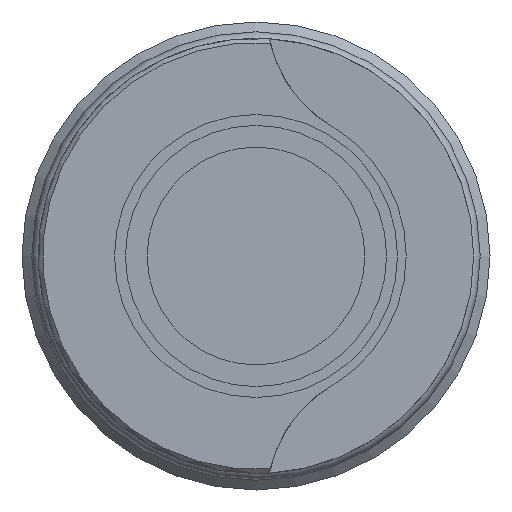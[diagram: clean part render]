
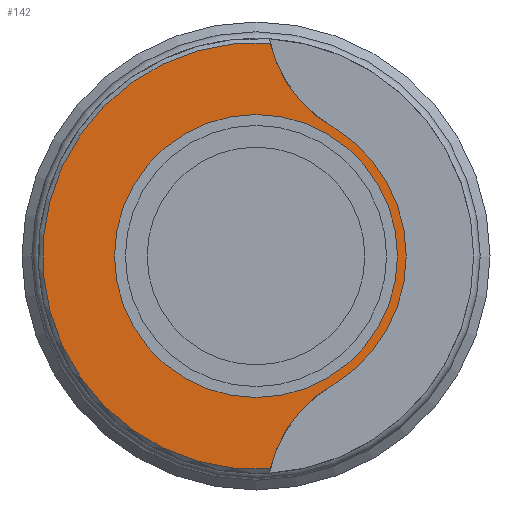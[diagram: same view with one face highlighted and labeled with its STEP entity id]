
A CAD part, left-side view. The second image highlights one B-rep face of the part: STEP entity #142.
In plain terms, the highlighted planar face has unit normal (-1, 0, 0).
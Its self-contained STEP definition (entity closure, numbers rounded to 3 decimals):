
#142 = ADVANCED_FACE( '', ( #311, #312 ), #313, .F. );
#311 = FACE_OUTER_BOUND( '', #488, .T. );
#312 = FACE_BOUND( '', #489, .T. );
#313 = PLANE( '', #490 );
#488 = EDGE_LOOP( '', ( #813, #814, #815, #816 ) );
#489 = EDGE_LOOP( '', ( #817 ) );
#490 = AXIS2_PLACEMENT_3D( '', #818, #819, #820 );
#813 = ORIENTED_EDGE( '', *, *, #1035, .F. );
#814 = ORIENTED_EDGE( '', *, *, #989, .T. );
#815 = ORIENTED_EDGE( '', *, *, #985, .F. );
#816 = ORIENTED_EDGE( '', *, *, #1036, .T. );
#817 = ORIENTED_EDGE( '', *, *, #1037, .T. );
#818 = CARTESIAN_POINT( '', ( 0., 6.5, 0. ) );
#819 = DIRECTION( '', ( 1., 0., 0. ) );
#820 = DIRECTION( '', ( 0., 0., -1. ) );
#985 = EDGE_CURVE( '', #1174, #1175, #1176, .T. );
#989 = EDGE_CURVE( '', #1180, #1175, #1181, .T. );
#1035 = EDGE_CURVE( '', #1180, #1241, #1242, .T. );
#1036 = EDGE_CURVE( '', #1174, #1241, #1243, .T. );
#1037 = EDGE_CURVE( '', #1244, #1244, #1245, .T. );
#1174 = VERTEX_POINT( '', #1427 );
#1175 = VERTEX_POINT( '', #1428 );
#1176 = CIRCLE( '', #1429, 6.9 );
#1180 = VERTEX_POINT( '', #1435 );
#1181 = CIRCLE( '', #1436, 6. );
#1241 = VERTEX_POINT( '', #1513 );
#1242 = CIRCLE( '', #1514, 9.8 );
#1243 = CIRCLE( '', #1515, 6. );
#1244 = VERTEX_POINT( '', #1516 );
#1245 = CIRCLE( '', #1517, 6.5 );
#1427 = CARTESIAN_POINT( '', ( 0., -3.583, 5.897 ) );
#1428 = CARTESIAN_POINT( '', ( 0., -3.583, -5.897 ) );
#1429 = AXIS2_PLACEMENT_3D( '', #1630, #1631, #1632 );
#1435 = CARTESIAN_POINT( '', ( 0., -0.657, -9.778 ) );
#1436 = AXIS2_PLACEMENT_3D( '', #1635, #1636, #1637 );
#1513 = CARTESIAN_POINT( '', ( 0., -0.657, 9.778 ) );
#1514 = AXIS2_PLACEMENT_3D( '', #1685, #1686, #1687 );
#1515 = AXIS2_PLACEMENT_3D( '', #1688, #1689, #1690 );
#1516 = CARTESIAN_POINT( '', ( 0., 0., -6.5 ) );
#1517 = AXIS2_PLACEMENT_3D( '', #1691, #1692, #1693 );
#1630 = CARTESIAN_POINT( '', ( 0., 0., 0. ) );
#1631 = DIRECTION( '', ( 1., 0., 0. ) );
#1632 = DIRECTION( '', ( 0., 0., -1. ) );
#1635 = CARTESIAN_POINT( '', ( 0., -6.5, -11.14 ) );
#1636 = DIRECTION( '', ( 1., 0., 0. ) );
#1637 = DIRECTION( '', ( 0., 0., -1. ) );
#1685 = CARTESIAN_POINT( '', ( 0., 0., 0. ) );
#1686 = DIRECTION( '', ( 1., 0., 0. ) );
#1687 = DIRECTION( '', ( 0., 0., -1. ) );
#1688 = CARTESIAN_POINT( '', ( 0., -6.5, 11.14 ) );
#1689 = DIRECTION( '', ( 1., 0., 0. ) );
#1690 = DIRECTION( '', ( 0., 0., -1. ) );
#1691 = CARTESIAN_POINT( '', ( 0., 0., 0. ) );
#1692 = DIRECTION( '', ( 1., 0., 0. ) );
#1693 = DIRECTION( '', ( 0., 0., -1. ) );
